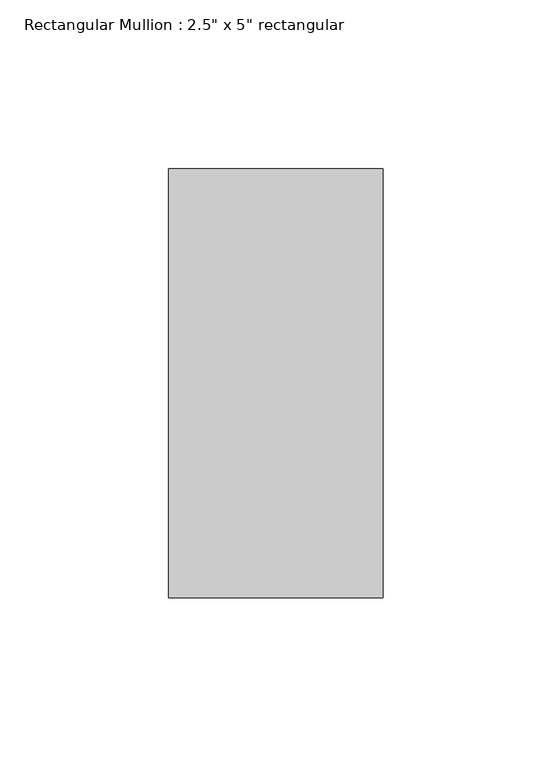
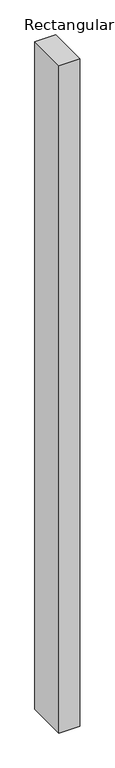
"""IFC4 building model written with IfcOpenShell, lengths in millimetres: member geometry."""

from ifc_helpers import new_model, si_unit, frame, origin, place, context, project, spatial, polyline, outline, extrude, source, transform, mapped, element, save


def member_5b0bf701(model_context):
    return source(origin(), model_context, "Body", "SweptSolid", [
        extrude(outline(polyline([(31.75, 63.5), (31.75, -63.5), (-31.75, -63.5), (-31.75, 63.5), (31.75, 63.5)])), frame((0.0, 0.0, -2156.4403385), z_axis=(0.0, 0.0, 1.0), x_axis=(1.0, 0.0, 0.0)), (0.0, 0.0, 1.0), 2156.4403385),
    ])


if __name__ == "__main__":
    model = new_model("IFC4")
    model_context = context("Model", 3, world=origin())
    ifc_project = project(units=[si_unit("LENGTHUNIT", "METRE", prefix="MILLI")], contexts=[model_context])
    site = spatial("IfcSite", under=ifc_project)
    building = spatial("IfcBuilding", under=site)
    placement = place(None, origin())
    member_shape = member_5b0bf701(model_context)
    element("IfcMember", 1, ObjectType="Rectangular Mullion : 2.5\" x 5\" rectangular", at=placement, inside=building, context=model_context, shape_type="MappedRepresentation", body=[
        mapped(member_shape, transform((0.0, 0.0, 0.0), x_axis=(1.0, 0.0, 0.0), y_axis=(0.0, 1.0, 0.0), z_axis=(0.0, 0.0, 1.0))),
    ])
    save(model, "model.ifc")
